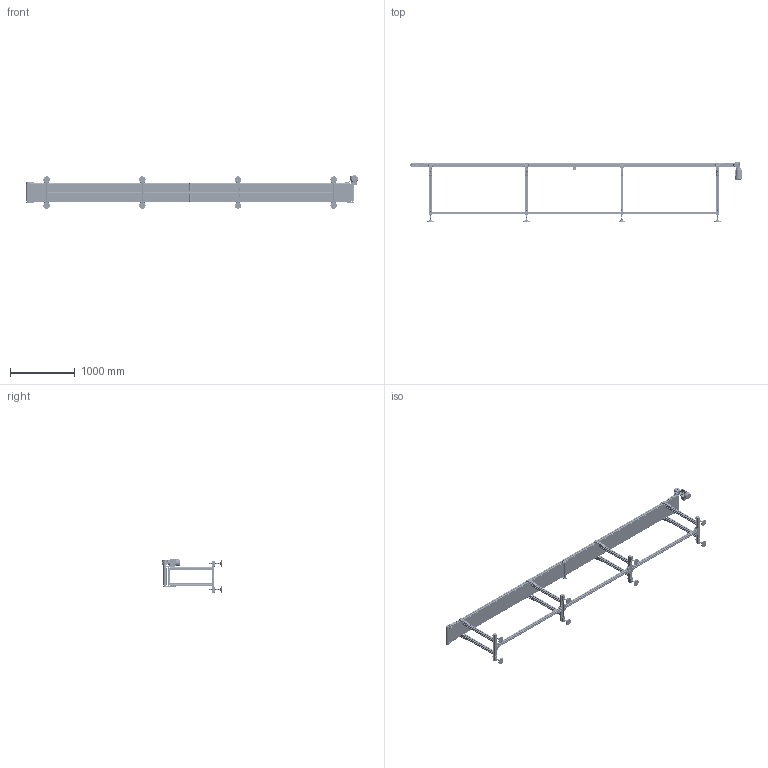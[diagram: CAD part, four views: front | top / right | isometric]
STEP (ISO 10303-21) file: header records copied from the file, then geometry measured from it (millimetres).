
FILE_DESCRIPTION (( 'STEP AP203' ), '1' );
FILE_NAME ('NASTRO_RETTILINEO_TAPPETO.step', '2026-06-04T08:32:44', ( 'Utente Windows' ), ( '' ), 'SwSTEP 2.0', 'SolidWorks 2024', '' );
FILE_SCHEMA (( 'CONFIG_CONTROL_DESIGN' ));
Length unit declared in the file: millimetre
Products named in the file (67): 084.201.012-1; 084.802.014; 2010.000.069; 084.810.001; 084.802.062; CHIAVETTE_A 5x5x20 UNI 6604-69; BLOCCO_TRAINO_50_STANDARD; RULLO_REGGITAPPETO; 084.808.012; BLOCCO_PERNO_50_30; VITI TSEI UNI 5933_M4x10 UNI 5933; BLOCCO_REGGITAPPETO; RULLO_50_Default<A macchina>; BLOCCO_TRAINO_50_STANDARD_30_DX; VITE_RONDELLA_M8X20; 084.303.001; 084.301.000 VITI ALUSIC_084.301.009; LAMIERA_STANDARD; 2010.000.068_L; 084.811.004; VITI TSEI UNI 5933_M5x12 UNI 5933; 14UNI7435; 084.807.003_084.807.003<A macchina>; NASTRO_RETTILINEO_TAPPETO; BLOCCO_PERNO_50_RINVIO; 084.811.001; VITI TE UNI 5739_M6x16 UNI 5739; 084.807.002_084.807.002; FLANGIA_GAMBA_50; ANGOLARE_43; TELAIO_50_STANDARD_Default<A macchina>; 2010.000.068; VITI TCEI UNI 5931_M6x12 UNI 5931; RONDELLE FASCIA LARGA UNI 6593_5.4x20 UNI 6593; PIEDE; 084.305.003-1; RONDELLE UNI 6592_8.4x17 UNI 6592; 084.802.071; 0820ISO2342; 084.802.028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
Assembly tree (223 placements, depth 4):
  NASTRO_RETTILINEO_TAPPETO
    TAPPETO_STANDARD
    TELAIO_50_STANDARD_Default<A macchina>
    LAMIERA_STANDARD  x3
    RULLO_50_Default<A macchina>  x2
    BLOCCO_PERNO_50_30
      084.810.001
      084.811.001
      RONDELLE FASCIA LARGA UNI 6593_5.4x20 UNI 6593
      084.301.000 VITI ALUSIC_084.301.009
      CHIAVETTE_A 5x5x40 UNI 6604-69
      CHIAVETTE_A 5x5x20 UNI 6604-69
      14UNI7435
    BLOCCO_TRAINO_50_STANDARD_30_DX
      084.807.003_084.807.003<A macchina>
      084.802.017_084.802.017
      084.301.000 VITI ALUSIC_084.301.003  x2
      084.302.000 DADI ALUSIC 13x13-1_084.302.004  x2
      BLOCCO_BRACCIO_CH03P_VF30P
        084.808.012
        084.802.062
        0820ISO2342
        084.802.061
        VITI TE UNI 5739_M6x16 UNI 5739  x4
        084.803.018
        VITI TCEI UNI 5931_M6x12 UNI 5931  x4
      084.802.065_Default<A macchina>
      VITI TCEI UNI 5931_M4x25 UNI 5931  x2
    BLOCCO_PERNO_50_RINVIO  x3
      084.811.004
      084.810.001
    BLOCCO_TRAINO_50_STANDARD
      084.807.002_084.807.002
      084.802.017_084.802.017
      084.301.000 VITI ALUSIC_084.301.003  x2
      084.302.000 DADI ALUSIC 13x13-1_084.302.004  x2
      084.802.071
      VITI TSEI UNI 5933 INOX_0412UNI5933A2  x2
    BLOCCO_RINVIO_50_STANDARD  x2
      084.807.002_084.807.002
      084.802.017_084.802.017
      084.802.008
      084.301.000 VITI ALUSIC_084.301.003
      084.302.000 DADI ALUSIC 13x13_084.302.004
      VITI TSEI UNI 5933_M4x10 UNI 5933
      084.802.071
    GAMBE_D50_Default<A macchina>  x4
    FLANGIA_GAMBA_50
      084.302.000 DADI ALUSIC 13x13-1_084.302.004  x4
      RONDELLE UNI 6592_8.4x17 UNI 6592  x3
      084.301.000 VITI ALUSIC_084.301.003  x4
      2010.000.068
        2010.000.068_L
        2010.000.069
        2010.000.070
    FLANGIA_GAMBA_50  x7
      084.302.000 DADI ALUSIC 13x13-1_084.302.004
      RONDELLE UNI 6592_8.4x17 UNI 6592
      084.301.000 VITI ALUSIC_084.301.003
      2010.000.068
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Bounding box: 5112 x 928.1 x 517.82 mm (x, y, z)
Volume: 26354019.7 mm3; surface area: 23278597.1 mm2
Topology: 533 solids, 541 shells, 27229 faces, 71190 edges, 45299 vertices
Faces by surface type: plane 11056, cylinder 8820, bspline 3133, cone 2133, torus 1841, sphere 246
Entity records: 283594 total; most frequent: CARTESIAN_POINT 94760, ORIENTED_EDGE 39066, DIRECTION 35199, EDGE_CURVE 19533, VERTEX_POINT 12659, AXIS2_PLACEMENT_3D 12139, VECTOR 10921, LINE 10921
